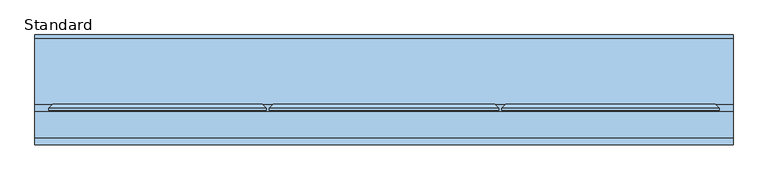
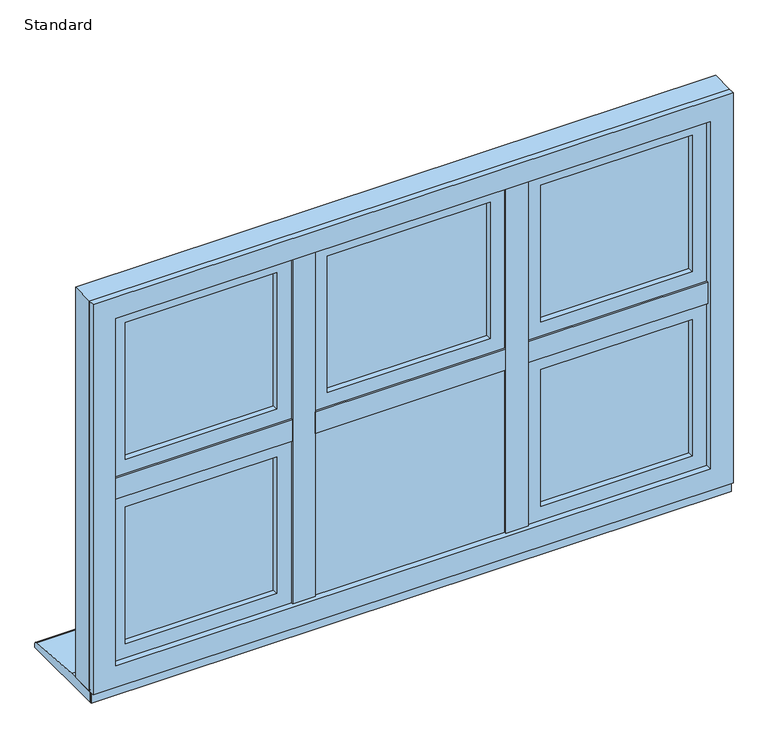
"""IFC4 building model written with IfcOpenShell, lengths in millimetres: window geometry, SMARTS_Alitherm600 : Standard."""

from ifc_helpers import new_model, si_unit, point, frame, frame_2d, origin, place, context, project, spatial, polyline, circle_curve, trimmed, segment, composite_curve, outline, extrude, faceted_brep, source, transform, mapped, element, save


def standard_bec5accc(model_context):
    return source(origin(), model_context, "Body", "SolidModel", [
        extrude(outline(polyline([(-256.0666667, 102.8298432), (-237.2666667, 102.8298432), (-237.2666667, 47.2458572), (-256.0666667, 47.2458572), (-256.0666667, 102.8298432)])), frame((0.0, 0.0, 670.8979117), z_axis=(0.0, 0.0, 1.0), x_axis=(1.0, 0.0, 0.0)), (0.0, 0.0, 1.0), 883.2041766),
        extrude(outline(polyline([(-272.568755, 47.2458572), (-220.7645784, 47.2458572), (-220.7645784, 43.2798432), (-272.568755, 43.2798432), (-272.568755, 47.2458572)])), frame((0.0, 0.0, 687.4), z_axis=(0.0, 0.0, 1.0), x_axis=(1.0, 0.0, 0.0)), (0.0, 0.0, 1.0), 850.2),
        extrude(outline(polyline([(237.2666667, 102.8298432), (256.0666667, 102.8298432), (256.0666667, 47.2458572), (237.2666667, 47.2458572), (237.2666667, 102.8298432)])), frame((0.0, 0.0, 670.8979117), z_axis=(0.0, 0.0, 1.0), x_axis=(1.0, 0.0, 0.0)), (0.0, 0.0, 1.0), 883.2041766),
        extrude(outline(polyline([(220.7645784, 47.2458572), (272.568755, 47.2458572), (272.568755, 43.2798432), (220.7645784, 43.2798432), (220.7645784, 47.2458572)])), frame((0.0, 0.0, 687.4), z_axis=(0.0, 0.0, 1.0), x_axis=(1.0, 0.0, 0.0)), (0.0, 0.0, 1.0), 850.2),
        extrude(outline(polyline([(-256.1645784, 102.8298432), (-256.1645784, 47.2458572), (-704.1020883, 47.2458572), (-704.1020883, 102.8298432), (-256.1645784, 102.8298432)])), frame((0.0, 0.0, 1103.1), z_axis=(0.0, 0.0, 1.0), x_axis=(1.0, 0.0, 0.0)), (0.0, 0.0, 1.0), 18.8),
        extrude(outline(polyline([(-272.6666667, 47.2458572), (-272.6666667, 43.2798432), (-687.6, 43.2798432), (-687.6, 47.2458572), (-272.6666667, 47.2458572)])), frame((0.0, 0.0, 1086.5979117), z_axis=(0.0, 0.0, 1.0), x_axis=(1.0, 0.0, 0.0)), (0.0, 0.0, 1.0), 51.8041766),
        extrude(outline(polyline([(237.168755, 102.8298432), (237.168755, 47.2458572), (-237.168755, 47.2458572), (-237.168755, 102.8298432), (237.168755, 102.8298432)])), frame((0.0, 0.0, 1103.1), z_axis=(0.0, 0.0, 1.0), x_axis=(1.0, 0.0, 0.0)), (0.0, 0.0, 1.0), 18.8),
        extrude(outline(polyline([(220.6666667, 47.2458572), (220.6666667, 43.2798432), (-220.6666667, 43.2798432), (-220.6666667, 47.2458572), (220.6666667, 47.2458572)])), frame((0.0, 0.0, 1086.5979117), z_axis=(0.0, 0.0, 1.0), x_axis=(1.0, 0.0, 0.0)), (0.0, 0.0, 1.0), 51.8041766),
        extrude(outline(polyline([(704.1020883, 102.8298432), (704.1020883, 47.2458572), (256.1645784, 47.2458572), (256.1645784, 102.8298432), (704.1020883, 102.8298432)])), frame((0.0, 0.0, 1103.1), z_axis=(0.0, 0.0, 1.0), x_axis=(1.0, 0.0, 0.0)), (0.0, 0.0, 1.0), 18.8),
        extrude(outline(polyline([(687.6, 47.2458572), (687.6, 43.2798432), (272.6666667, 43.2798432), (272.6666667, 47.2458572), (687.6, 47.2458572)])), frame((0.0, 0.0, 1086.5979117), z_axis=(0.0, 0.0, 1.0), x_axis=(1.0, 0.0, 0.0)), (0.0, 0.0, 1.0), 51.8041766),
        extrude(outline(polyline([(1065.5, -666.6), (708.4, -666.6), (708.4, -293.6666667), (1065.5, -293.6666667), (1065.5, -666.6)]), holes=[polyline([(1055.5, -303.6666667), (718.4, -303.6666667), (718.4, -656.6), (1055.5, -656.6), (1055.5, -303.6666667)])]), frame((0.0, 72.3211351, 0.0), z_axis=(0.0, 1.0, 0.0), x_axis=(0.0, 0.0, 1.0)), (0.0, 0.0, 1.0), 16.0),
        extrude(outline(polyline([(-666.6, 92.3211351), (-293.6666667, 92.3211351), (-293.6666667, 88.3211351), (-666.6, 88.3211351), (-666.6, 92.3211351)])), frame((0.0, 0.0, 708.4), z_axis=(0.0, 0.0, 1.0), x_axis=(1.0, 0.0, 0.0)), (0.0, 0.0, 1.0), 357.1),
        extrude(outline(polyline([(-666.6, 72.3211351), (-293.6666667, 72.3211351), (-293.6666667, 68.3211351), (-666.6, 68.3211351), (-666.6, 72.3211351)])), frame((0.0, 0.0, 708.4), z_axis=(0.0, 0.0, 1.0), x_axis=(1.0, 0.0, 0.0)), (0.0, 0.0, 1.0), 357.1),
        faceted_brep([(-293.344552, 118.8818325, 1065.8221147), (-305.5266427, 97.7818325, 1053.640024), (-654.740024, 97.7818325, 1053.640024), (-666.9221147, 118.8818325, 1065.8221147), (-288.6606173, 97.7818325, 1070.5060494), (-288.6606173, 118.8818325, 1070.5060494), (-671.6060494, 118.8818325, 1070.5060494), (-671.6060494, 97.7818325, 1070.5060494), (-654.740024, 97.7818325, 720.259976), (-666.9221147, 118.8818325, 708.0778853), (-671.6060494, 118.8818325, 703.3939506), (-671.6060494, 97.7818325, 703.3939506), (-305.5266427, 97.7818325, 720.259976), (-293.344552, 118.8818325, 708.0778853), (-288.6606173, 118.8818325, 703.3939506), (-288.6606173, 97.7818325, 703.3939506)], [[[0, 1, 2, 3]], [[4, 5, 6, 7]], [[3, 2, 8, 9]], [[7, 6, 10, 11]], [[9, 8, 12, 13]], [[11, 10, 14, 15]], [[13, 12, 1, 0]], [[5, 14, 10, 6], [3, 9, 13, 0]], [[15, 14, 5, 4]], [[7, 11, 15, 4], [1, 12, 8, 2]]]),
        extrude(outline(polyline([(681.552908, -693.447092), (681.552908, -266.8195747), (1092.347092, -266.8195747), (1092.347092, -693.447092), (681.552908, -693.447092)]), holes=[polyline([(1054.0, -655.1), (1054.0, -305.1666667), (719.9, -305.1666667), (719.9, -655.1), (1054.0, -655.1)])]), frame((0.0, 50.2798432, 0.0), z_axis=(0.0, 1.0, 0.0), x_axis=(0.0, 0.0, 1.0)), (0.0, 0.0, 1.0), 13.0853156),
        faceted_brep([(-671.6060494, 118.8818325, 1070.5060494), (-671.6060494, 63.3651588, 1070.5060494), (-671.6060494, 63.3651588, 703.3939506), (-671.6060494, 118.8818325, 703.3939506), (-288.6606173, 63.3651588, 703.3939506), (-288.6606173, 118.8818325, 703.3939506), (-288.6606173, 63.3651588, 1070.5060494), (-288.6606173, 118.8818325, 1070.5060494), (-710.3358988, 106.2818325, 1109.2358988), (-710.3358988, 110.3519831, 1109.2358988), (-710.3358988, 110.3519831, 664.6641012), (-710.3358988, 106.2818325, 664.6641012), (-249.9307679, 110.3519831, 664.6641012), (-249.9307679, 106.2818325, 664.6641012), (-249.9307679, 110.3519831, 1109.2358988), (-249.9307679, 106.2818325, 1109.2358988), (-693.7467657, 106.2818325, 1092.6467657), (-266.5199009, 106.2818325, 1092.6467657), (-266.5199009, 106.2818325, 681.2532343), (-693.7467657, 106.2818325, 681.2532343), (-701.8060494, 118.8818325, 1100.7060494), (-258.4606173, 118.8818325, 1100.7060494), (-258.4606173, 118.8818325, 673.1939506), (-701.8060494, 118.8818325, 673.1939506), (-693.7467657, 63.3651588, 1092.6467657), (-693.7467657, 63.3651588, 681.2532343), (-266.5199009, 63.3651588, 681.2532343), (-266.5199009, 63.3651588, 1092.6467657)], [[[0, 1, 2, 3]], [[3, 2, 4, 5]], [[5, 4, 6, 7]], [[7, 6, 1, 0]], [[8, 9, 10, 11]], [[11, 10, 12, 13]], [[13, 12, 14, 15]], [[11, 13, 15, 8], [16, 17, 18, 19]], [[15, 14, 9, 8]], [[20, 21, 22, 23], [3, 5, 7, 0]], [[24, 16, 19, 25]], [[25, 19, 18, 26]], [[26, 18, 17, 27]], [[25, 26, 27, 24], [1, 6, 4, 2]], [[27, 17, 16, 24]], [[9, 20, 23, 10]], [[10, 23, 22, 12]], [[12, 22, 21, 14]], [[14, 21, 20, 9]]]),
        extrude(outline(polyline([(1516.6, -666.6), (1159.5, -666.6), (1159.5, -293.6666667), (1516.6, -293.6666667), (1516.6, -666.6)]), holes=[polyline([(1506.6, -303.6666667), (1169.5, -303.6666667), (1169.5, -656.6), (1506.6, -656.6), (1506.6, -303.6666667)])]), frame((0.0, 72.3211351, 0.0), z_axis=(0.0, 1.0, 0.0), x_axis=(0.0, 0.0, 1.0)), (0.0, 0.0, 1.0), 16.0),
        extrude(outline(polyline([(-666.6, 92.3211351), (-293.6666667, 92.3211351), (-293.6666667, 88.3211351), (-666.6, 88.3211351), (-666.6, 92.3211351)])), frame((0.0, 0.0, 1159.5), z_axis=(0.0, 0.0, 1.0), x_axis=(1.0, 0.0, 0.0)), (0.0, 0.0, 1.0), 357.1),
        extrude(outline(polyline([(-666.6, 72.3211351), (-293.6666667, 72.3211351), (-293.6666667, 68.3211351), (-666.6, 68.3211351), (-666.6, 72.3211351)])), frame((0.0, 0.0, 1159.5), z_axis=(0.0, 0.0, 1.0), x_axis=(1.0, 0.0, 0.0)), (0.0, 0.0, 1.0), 357.1),
        faceted_brep([(-293.344552, 118.8818325, 1516.9221147), (-305.5266427, 97.7818325, 1504.740024), (-654.740024, 97.7818325, 1504.740024), (-666.9221147, 118.8818325, 1516.9221147), (-288.6606173, 97.7818325, 1521.6060494), (-288.6606173, 118.8818325, 1521.6060494), (-671.6060494, 118.8818325, 1521.6060494), (-671.6060494, 97.7818325, 1521.6060494), (-654.740024, 97.7818325, 1171.359976), (-666.9221147, 118.8818325, 1159.1778853), (-671.6060494, 118.8818325, 1154.4939506), (-671.6060494, 97.7818325, 1154.4939506), (-305.5266427, 97.7818325, 1171.359976), (-293.344552, 118.8818325, 1159.1778853), (-288.6606173, 118.8818325, 1154.4939506), (-288.6606173, 97.7818325, 1154.4939506)], [[[0, 1, 2, 3]], [[4, 5, 6, 7]], [[3, 2, 8, 9]], [[7, 6, 10, 11]], [[9, 8, 12, 13]], [[11, 10, 14, 15]], [[13, 12, 1, 0]], [[5, 14, 10, 6], [3, 9, 13, 0]], [[15, 14, 5, 4]], [[7, 11, 15, 4], [1, 12, 8, 2]]]),
        extrude(outline(polyline([(1132.652908, -693.447092), (1132.652908, -266.8195747), (1543.447092, -266.8195747), (1543.447092, -693.447092), (1132.652908, -693.447092)]), holes=[polyline([(1505.1, -655.1), (1505.1, -305.1666667), (1171.0, -305.1666667), (1171.0, -655.1), (1505.1, -655.1)])]), frame((0.0, 50.2798432, 0.0), z_axis=(0.0, 1.0, 0.0), x_axis=(0.0, 0.0, 1.0)), (0.0, 0.0, 1.0), 13.0853156),
        faceted_brep([(-671.6060494, 118.8818325, 1521.6060494), (-671.6060494, 63.3651588, 1521.6060494), (-671.6060494, 63.3651588, 1154.4939506), (-671.6060494, 118.8818325, 1154.4939506), (-288.6606173, 63.3651588, 1154.4939506), (-288.6606173, 118.8818325, 1154.4939506), (-288.6606173, 63.3651588, 1521.6060494), (-288.6606173, 118.8818325, 1521.6060494), (-710.3358988, 106.2818325, 1560.3358988), (-710.3358988, 110.3519831, 1560.3358988), (-710.3358988, 110.3519831, 1115.7641012), (-710.3358988, 106.2818325, 1115.7641012), (-249.9307679, 110.3519831, 1115.7641012), (-249.9307679, 106.2818325, 1115.7641012), (-249.9307679, 110.3519831, 1560.3358988), (-249.9307679, 106.2818325, 1560.3358988), (-693.7467657, 106.2818325, 1543.7467657), (-266.5199009, 106.2818325, 1543.7467657), (-266.5199009, 106.2818325, 1132.3532343), (-693.7467657, 106.2818325, 1132.3532343), (-701.8060494, 118.8818325, 1551.8060494), (-258.4606173, 118.8818325, 1551.8060494), (-258.4606173, 118.8818325, 1124.2939506), (-701.8060494, 118.8818325, 1124.2939506), (-693.7467657, 63.3651588, 1543.7467657), (-693.7467657, 63.3651588, 1132.3532343), (-266.5199009, 63.3651588, 1132.3532343), (-266.5199009, 63.3651588, 1543.7467657)], [[[0, 1, 2, 3]], [[3, 2, 4, 5]], [[5, 4, 6, 7]], [[7, 6, 1, 0]], [[8, 9, 10, 11]], [[11, 10, 12, 13]], [[13, 12, 14, 15]], [[11, 13, 15, 8], [16, 17, 18, 19]], [[15, 14, 9, 8]], [[20, 21, 22, 23], [3, 5, 7, 0]], [[24, 16, 19, 25]], [[25, 19, 18, 26]], [[26, 18, 17, 27]], [[25, 26, 27, 24], [1, 6, 4, 2]], [[27, 17, 16, 24]], [[9, 20, 23, 10]], [[10, 23, 22, 12]], [[12, 22, 21, 14]], [[14, 21, 20, 9]]]),
        extrude(outline(polyline([(-235.6666667, 77.7798432), (235.6666667, 77.7798432), (235.6666667, 73.7798432), (-235.6666667, 73.7798432), (-235.6666667, 77.7798432)])), frame((0.0, 0.0, 672.4), z_axis=(0.0, 0.0, 1.0), x_axis=(1.0, 0.0, 0.0)), (0.0, 0.0, 1.0), 429.1),
        extrude(outline(polyline([(-235.6666667, 57.7798432), (235.6666667, 57.7798432), (235.6666667, 53.7798432), (-235.6666667, 53.7798432), (-235.6666667, 57.7798432)])), frame((0.0, 0.0, 672.4), z_axis=(0.0, 0.0, 1.0), x_axis=(1.0, 0.0, 0.0)), (0.0, 0.0, 1.0), 429.1),
        extrude(outline(polyline([(1101.5, -235.6666667), (672.4, -235.6666667), (672.4, 235.6666667), (1101.5, 235.6666667), (1101.5, -235.6666667)]), holes=[polyline([(1091.5, 225.6666667), (682.4, 225.6666667), (682.4, -225.6666667), (1091.5, -225.6666667), (1091.5, 225.6666667)])]), frame((0.0, 57.7798432, 0.0), z_axis=(0.0, 1.0, 0.0), x_axis=(0.0, 0.0, 1.0)), (0.0, 0.0, 1.0), 16.0),
        faceted_brep([(-232.4827319, 102.7798432, 1098.3160653), (-220.3006413, 81.6798432, 1086.1339746), (-220.3006413, 81.6798432, 687.7660254), (-232.4827319, 102.7798432, 675.5839347), (220.3006413, 81.6798432, 687.7660254), (232.4827319, 102.7798432, 675.5839347), (220.3006413, 81.6798432, 1086.1339746), (232.4827319, 102.7798432, 1098.3160653), (237.1666667, 81.6798432, 1103.0), (237.1666667, 102.7798432, 1103.0), (-237.1666667, 102.7798432, 1103.0), (-237.1666667, 81.6798432, 1103.0), (-237.1666667, 102.7798432, 670.9), (-237.1666667, 81.6798432, 670.9), (237.1666667, 102.7798432, 670.9), (237.1666667, 81.6798432, 670.9)], [[[0, 1, 2, 3]], [[3, 2, 4, 5]], [[5, 4, 6, 7]], [[7, 6, 1, 0]], [[8, 9, 10, 11]], [[11, 10, 12, 13]], [[13, 12, 14, 15]], [[9, 14, 12, 10], [0, 3, 5, 7]], [[15, 14, 9, 8]], [[11, 13, 15, 8], [6, 4, 2, 1]]]),
        extrude(outline(polyline([(1516.6, -199.6666667), (1159.5, -199.6666667), (1159.5, 199.6666667), (1516.6, 199.6666667), (1516.6, -199.6666667)]), holes=[polyline([(1506.6, 189.6666667), (1169.5, 189.6666667), (1169.5, -189.6666667), (1506.6, -189.6666667), (1506.6, 189.6666667)])]), frame((0.0, 72.3211351, 0.0), z_axis=(0.0, 1.0, 0.0), x_axis=(0.0, 0.0, 1.0)), (0.0, 0.0, 1.0), 16.0),
        extrude(outline(polyline([(-199.6666667, 92.3211351), (199.6666667, 92.3211351), (199.6666667, 88.3211351), (-199.6666667, 88.3211351), (-199.6666667, 92.3211351)])), frame((0.0, 0.0, 1159.5), z_axis=(0.0, 0.0, 1.0), x_axis=(1.0, 0.0, 0.0)), (0.0, 0.0, 1.0), 357.1),
        extrude(outline(polyline([(-199.6666667, 72.3211351), (199.6666667, 72.3211351), (199.6666667, 68.3211351), (-199.6666667, 68.3211351), (-199.6666667, 72.3211351)])), frame((0.0, 0.0, 1159.5), z_axis=(0.0, 0.0, 1.0), x_axis=(1.0, 0.0, 0.0)), (0.0, 0.0, 1.0), 357.1),
        faceted_brep([(199.9887813, 118.8818325, 1516.9221147), (187.8066907, 97.7818325, 1504.740024), (-187.8066907, 97.7818325, 1504.740024), (-199.9887813, 118.8818325, 1516.9221147), (204.6727161, 97.7818325, 1521.6060494), (204.6727161, 118.8818325, 1521.6060494), (-204.6727161, 118.8818325, 1521.6060494), (-204.6727161, 97.7818325, 1521.6060494), (-187.8066907, 97.7818325, 1171.359976), (-199.9887813, 118.8818325, 1159.1778853), (-204.6727161, 118.8818325, 1154.4939506), (-204.6727161, 97.7818325, 1154.4939506), (187.8066907, 97.7818325, 1171.359976), (199.9887813, 118.8818325, 1159.1778853), (204.6727161, 118.8818325, 1154.4939506), (204.6727161, 97.7818325, 1154.4939506)], [[[0, 1, 2, 3]], [[4, 5, 6, 7]], [[3, 2, 8, 9]], [[7, 6, 10, 11]], [[9, 8, 12, 13]], [[11, 10, 14, 15]], [[13, 12, 1, 0]], [[5, 14, 10, 6], [3, 9, 13, 0]], [[15, 14, 5, 4]], [[7, 11, 15, 4], [1, 12, 8, 2]]]),
        extrude(outline(polyline([(1132.652908, -226.5137586), (1132.652908, 226.5137586), (1543.447092, 226.5137586), (1543.447092, -226.5137586), (1132.652908, -226.5137586)]), holes=[polyline([(1505.1, -188.1666667), (1505.1, 188.1666667), (1171.0, 188.1666667), (1171.0, -188.1666667), (1505.1, -188.1666667)])]), frame((0.0, 50.2798432, 0.0), z_axis=(0.0, 1.0, 0.0), x_axis=(0.0, 0.0, 1.0)), (0.0, 0.0, 1.0), 13.0853156),
        faceted_brep([(-204.6727161, 118.8818325, 1521.6060494), (-204.6727161, 63.3651588, 1521.6060494), (-204.6727161, 63.3651588, 1154.4939506), (-204.6727161, 118.8818325, 1154.4939506), (204.6727161, 63.3651588, 1154.4939506), (204.6727161, 118.8818325, 1154.4939506), (204.6727161, 63.3651588, 1521.6060494), (204.6727161, 118.8818325, 1521.6060494), (-243.4025655, 106.2818325, 1560.3358988), (-243.4025655, 110.3519831, 1560.3358988), (-243.4025655, 110.3519831, 1115.7641012), (-243.4025655, 106.2818325, 1115.7641012), (243.4025655, 110.3519831, 1115.7641012), (243.4025655, 106.2818325, 1115.7641012), (243.4025655, 110.3519831, 1560.3358988), (243.4025655, 106.2818325, 1560.3358988), (-226.8134324, 106.2818325, 1543.7467657), (226.8134324, 106.2818325, 1543.7467657), (226.8134324, 106.2818325, 1132.3532343), (-226.8134324, 106.2818325, 1132.3532343), (-234.8727161, 118.8818325, 1551.8060494), (234.8727161, 118.8818325, 1551.8060494), (234.8727161, 118.8818325, 1124.2939506), (-234.8727161, 118.8818325, 1124.2939506), (-226.8134324, 63.3651588, 1543.7467657), (-226.8134324, 63.3651588, 1132.3532343), (226.8134324, 63.3651588, 1132.3532343), (226.8134324, 63.3651588, 1543.7467657)], [[[0, 1, 2, 3]], [[3, 2, 4, 5]], [[5, 4, 6, 7]], [[7, 6, 1, 0]], [[8, 9, 10, 11]], [[11, 10, 12, 13]], [[13, 12, 14, 15]], [[11, 13, 15, 8], [16, 17, 18, 19]], [[15, 14, 9, 8]], [[20, 21, 22, 23], [3, 5, 7, 0]], [[24, 16, 19, 25]], [[25, 19, 18, 26]], [[26, 18, 17, 27]], [[25, 26, 27, 24], [1, 6, 4, 2]], [[27, 17, 16, 24]], [[9, 20, 23, 10]], [[10, 23, 22, 12]], [[12, 22, 21, 14]], [[14, 21, 20, 9]]]),
        extrude(outline(polyline([(1065.5, 293.6666667), (708.4, 293.6666667), (708.4, 666.6), (1065.5, 666.6), (1065.5, 293.6666667)]), holes=[polyline([(1055.5, 656.6), (718.4, 656.6), (718.4, 303.6666667), (1055.5, 303.6666667), (1055.5, 656.6)])]), frame((0.0, 72.3211351, 0.0), z_axis=(0.0, 1.0, 0.0), x_axis=(0.0, 0.0, 1.0)), (0.0, 0.0, 1.0), 16.0),
        extrude(outline(polyline([(293.6666667, 92.3211351), (666.6, 92.3211351), (666.6, 88.3211351), (293.6666667, 88.3211351), (293.6666667, 92.3211351)])), frame((0.0, 0.0, 708.4), z_axis=(0.0, 0.0, 1.0), x_axis=(1.0, 0.0, 0.0)), (0.0, 0.0, 1.0), 357.1),
        extrude(outline(polyline([(293.6666667, 72.3211351), (666.6, 72.3211351), (666.6, 68.3211351), (293.6666667, 68.3211351), (293.6666667, 72.3211351)])), frame((0.0, 0.0, 708.4), z_axis=(0.0, 0.0, 1.0), x_axis=(1.0, 0.0, 0.0)), (0.0, 0.0, 1.0), 357.1),
        faceted_brep([(666.9221147, 118.8818325, 1065.8221147), (654.740024, 97.7818325, 1053.640024), (305.5266427, 97.7818325, 1053.640024), (293.344552, 118.8818325, 1065.8221147), (671.6060494, 97.7818325, 1070.5060494), (671.6060494, 118.8818325, 1070.5060494), (288.6606173, 118.8818325, 1070.5060494), (288.6606173, 97.7818325, 1070.5060494), (305.5266427, 97.7818325, 720.259976), (293.344552, 118.8818325, 708.0778853), (288.6606173, 118.8818325, 703.3939506), (288.6606173, 97.7818325, 703.3939506), (654.740024, 97.7818325, 720.259976), (666.9221147, 118.8818325, 708.0778853), (671.6060494, 118.8818325, 703.3939506), (671.6060494, 97.7818325, 703.3939506)], [[[0, 1, 2, 3]], [[4, 5, 6, 7]], [[3, 2, 8, 9]], [[7, 6, 10, 11]], [[9, 8, 12, 13]], [[11, 10, 14, 15]], [[13, 12, 1, 0]], [[5, 14, 10, 6], [3, 9, 13, 0]], [[15, 14, 5, 4]], [[7, 11, 15, 4], [1, 12, 8, 2]]]),
        extrude(outline(polyline([(681.552908, 266.8195747), (681.552908, 693.447092), (1092.347092, 693.447092), (1092.347092, 266.8195747), (681.552908, 266.8195747)]), holes=[polyline([(1054.0, 305.1666667), (1054.0, 655.1), (719.9, 655.1), (719.9, 305.1666667), (1054.0, 305.1666667)])]), frame((0.0, 50.2798432, 0.0), z_axis=(0.0, 1.0, 0.0), x_axis=(0.0, 0.0, 1.0)), (0.0, 0.0, 1.0), 13.0853156),
        faceted_brep([(288.6606173, 118.8818325, 1070.5060494), (288.6606173, 63.3651588, 1070.5060494), (288.6606173, 63.3651588, 703.3939506), (288.6606173, 118.8818325, 703.3939506), (671.6060494, 63.3651588, 703.3939506), (671.6060494, 118.8818325, 703.3939506), (671.6060494, 63.3651588, 1070.5060494), (671.6060494, 118.8818325, 1070.5060494), (249.9307679, 106.2818325, 1109.2358988), (249.9307679, 110.3519831, 1109.2358988), (249.9307679, 110.3519831, 664.6641012), (249.9307679, 106.2818325, 664.6641012), (710.3358988, 110.3519831, 664.6641012), (710.3358988, 106.2818325, 664.6641012), (710.3358988, 110.3519831, 1109.2358988), (710.3358988, 106.2818325, 1109.2358988), (266.5199009, 106.2818325, 1092.6467657), (693.7467657, 106.2818325, 1092.6467657), (693.7467657, 106.2818325, 681.2532343), (266.5199009, 106.2818325, 681.2532343), (258.4606173, 118.8818325, 1100.7060494), (701.8060494, 118.8818325, 1100.7060494), (701.8060494, 118.8818325, 673.1939506), (258.4606173, 118.8818325, 673.1939506), (266.5199009, 63.3651588, 1092.6467657), (266.5199009, 63.3651588, 681.2532343), (693.7467657, 63.3651588, 681.2532343), (693.7467657, 63.3651588, 1092.6467657)], [[[0, 1, 2, 3]], [[3, 2, 4, 5]], [[5, 4, 6, 7]], [[7, 6, 1, 0]], [[8, 9, 10, 11]], [[11, 10, 12, 13]], [[13, 12, 14, 15]], [[11, 13, 15, 8], [16, 17, 18, 19]], [[15, 14, 9, 8]], [[20, 21, 22, 23], [3, 5, 7, 0]], [[24, 16, 19, 25]], [[25, 19, 18, 26]], [[26, 18, 17, 27]], [[25, 26, 27, 24], [1, 6, 4, 2]], [[27, 17, 16, 24]], [[9, 20, 23, 10]], [[10, 23, 22, 12]], [[12, 22, 21, 14]], [[14, 21, 20, 9]]]),
        extrude(outline(polyline([(1590.0, 740.0), (1590.0, -740.0), (635.0, -740.0), (635.0, 740.0), (1590.0, 740.0)]), holes=[polyline([(670.85, 704.15), (670.85, -704.15), (1554.15, -704.15), (1554.15, 704.15), (670.85, 704.15)])]), frame((0.0, 47.2798427, 0.0), z_axis=(0.0, 1.0, 0.0), x_axis=(0.0, 0.0, 1.0)), (0.0, 0.0, 1.0), 55.5500006),
        extrude(outline(polyline([(1590.0, 740.0), (1590.0, -740.0), (635.0, -740.0), (635.0, 740.0), (1590.0, 740.0)]), holes=[polyline([(687.35, 687.65), (687.35, -687.65), (1537.65, -687.65), (1537.65, 687.65), (687.35, 687.65)])]), frame((0.0, 32.8298432, 0.0), z_axis=(0.0, 1.0, 0.0), x_axis=(0.0, 0.0, 1.0)), (0.0, 0.0, 1.0), 14.4499994),
        extrude(outline(polyline([(1516.6, 293.6666667), (1159.5, 293.6666667), (1159.5, 666.6), (1516.6, 666.6), (1516.6, 293.6666667)]), holes=[polyline([(1506.6, 656.6), (1169.5, 656.6), (1169.5, 303.6666667), (1506.6, 303.6666667), (1506.6, 656.6)])]), frame((0.0, 72.3211351, 0.0), z_axis=(0.0, 1.0, 0.0), x_axis=(0.0, 0.0, 1.0)), (0.0, 0.0, 1.0), 16.0),
        extrude(outline(polyline([(293.6666667, 92.3211351), (666.6, 92.3211351), (666.6, 88.3211351), (293.6666667, 88.3211351), (293.6666667, 92.3211351)])), frame((0.0, 0.0, 1159.5), z_axis=(0.0, 0.0, 1.0), x_axis=(1.0, 0.0, 0.0)), (0.0, 0.0, 1.0), 357.1),
        extrude(outline(polyline([(293.6666667, 72.3211351), (666.6, 72.3211351), (666.6, 68.3211351), (293.6666667, 68.3211351), (293.6666667, 72.3211351)])), frame((0.0, 0.0, 1159.5), z_axis=(0.0, 0.0, 1.0), x_axis=(1.0, 0.0, 0.0)), (0.0, 0.0, 1.0), 357.1),
        faceted_brep([(666.9221147, 118.8818325, 1516.9221147), (654.740024, 97.7818325, 1504.740024), (305.5266427, 97.7818325, 1504.740024), (293.344552, 118.8818325, 1516.9221147), (671.6060494, 97.7818325, 1521.6060494), (671.6060494, 118.8818325, 1521.6060494), (288.6606173, 118.8818325, 1521.6060494), (288.6606173, 97.7818325, 1521.6060494), (305.5266427, 97.7818325, 1171.359976), (293.344552, 118.8818325, 1159.1778853), (288.6606173, 118.8818325, 1154.4939506), (288.6606173, 97.7818325, 1154.4939506), (654.740024, 97.7818325, 1171.359976), (666.9221147, 118.8818325, 1159.1778853), (671.6060494, 118.8818325, 1154.4939506), (671.6060494, 97.7818325, 1154.4939506)], [[[0, 1, 2, 3]], [[4, 5, 6, 7]], [[3, 2, 8, 9]], [[7, 6, 10, 11]], [[9, 8, 12, 13]], [[11, 10, 14, 15]], [[13, 12, 1, 0]], [[5, 14, 10, 6], [3, 9, 13, 0]], [[15, 14, 5, 4]], [[7, 11, 15, 4], [1, 12, 8, 2]]]),
        extrude(outline(polyline([(1132.652908, 266.8195747), (1132.652908, 693.447092), (1543.447092, 693.447092), (1543.447092, 266.8195747), (1132.652908, 266.8195747)]), holes=[polyline([(1505.1, 305.1666667), (1505.1, 655.1), (1171.0, 655.1), (1171.0, 305.1666667), (1505.1, 305.1666667)])]), frame((0.0, 50.2798432, 0.0), z_axis=(0.0, 1.0, 0.0), x_axis=(0.0, 0.0, 1.0)), (0.0, 0.0, 1.0), 13.0853156),
        faceted_brep([(288.6606173, 118.8818325, 1521.6060494), (288.6606173, 63.3651588, 1521.6060494), (288.6606173, 63.3651588, 1154.4939506), (288.6606173, 118.8818325, 1154.4939506), (671.6060494, 63.3651588, 1154.4939506), (671.6060494, 118.8818325, 1154.4939506), (671.6060494, 63.3651588, 1521.6060494), (671.6060494, 118.8818325, 1521.6060494), (249.9307679, 106.2818325, 1560.3358988), (249.9307679, 110.3519831, 1560.3358988), (249.9307679, 110.3519831, 1115.7641012), (249.9307679, 106.2818325, 1115.7641012), (710.3358988, 110.3519831, 1115.7641012), (710.3358988, 106.2818325, 1115.7641012), (710.3358988, 110.3519831, 1560.3358988), (710.3358988, 106.2818325, 1560.3358988), (266.5199009, 106.2818325, 1543.7467657), (693.7467657, 106.2818325, 1543.7467657), (693.7467657, 106.2818325, 1132.3532343), (266.5199009, 106.2818325, 1132.3532343), (258.4606173, 118.8818325, 1551.8060494), (701.8060494, 118.8818325, 1551.8060494), (701.8060494, 118.8818325, 1124.2939506), (258.4606173, 118.8818325, 1124.2939506), (266.5199009, 63.3651588, 1543.7467657), (266.5199009, 63.3651588, 1132.3532343), (693.7467657, 63.3651588, 1132.3532343), (693.7467657, 63.3651588, 1543.7467657)], [[[0, 1, 2, 3]], [[3, 2, 4, 5]], [[5, 4, 6, 7]], [[7, 6, 1, 0]], [[8, 9, 10, 11]], [[11, 10, 12, 13]], [[13, 12, 14, 15]], [[11, 13, 15, 8], [16, 17, 18, 19]], [[15, 14, 9, 8]], [[20, 21, 22, 23], [3, 5, 7, 0]], [[24, 16, 19, 25]], [[25, 19, 18, 26]], [[26, 18, 17, 27]], [[25, 26, 27, 24], [1, 6, 4, 2]], [[27, 17, 16, 24]], [[9, 20, 23, 10]], [[10, 23, 22, 12]], [[12, 22, 21, 14]], [[14, 21, 20, 9]]]),
        extrude(outline(polyline([(740.0, 43.2798432), (740.0, 40.7798432), (-740.0, 40.7798432), (-740.0, 43.2798432), (740.0, 43.2798432)])), frame((0.0, 0.0, 610.0), z_axis=(0.0, 0.0, 1.0), x_axis=(1.0, 0.0, 0.0)), (0.0, 0.0, 1.0), 31.0),
        extrude(outline(composite_curve([segment(polyline([(265.7798432, 610.0), (43.2798432, 610.0), (43.2798432, 635.0), (118.7798432, 635.0), (258.4770891, 625.9276664)]), True, "CONTINUOUS"), segment(trimmed(circle_curve(frame_2d((257.7798432, 617.9581088)), 8.0), [point((258.4770891, 625.9276664))], [point((265.7798432, 617.9581088))], False, "CARTESIAN"), True, "CONTINUOUS"), segment(polyline([(265.7798432, 617.9581088), (265.7798432, 610.0)]), True, "CONTINUOUS")], self_intersect=False)), frame((-740.0, 0.0, 0.0), z_axis=(1.0, 0.0, 0.0), x_axis=(0.0, 1.0, 0.0)), (0.0, 0.0, 1.0), 1480.0),
    ])


if __name__ == "__main__":
    model = new_model("IFC4")
    model_context = context("Model", 3, world=origin())
    ifc_project = project(units=[si_unit("LENGTHUNIT", "METRE", prefix="MILLI")], contexts=[model_context])
    site = spatial("IfcSite", under=ifc_project)
    building = spatial("IfcBuilding", under=site)
    placement = place(None, origin())
    standard_shape = standard_bec5accc(model_context)
    element("IfcWindow", 1, ObjectType="SMARTS_Alitherm600 : Standard", at=placement, inside=building, context=model_context, shape_type="MappedRepresentation", body=[
        mapped(standard_shape, transform((0.0, 0.0, 0.0), x_axis=(1.0, 0.0, 0.0), y_axis=(0.0, 1.0, 0.0), z_axis=(0.0, 0.0, 1.0))),
    ])
    save(model, "model.ifc")
